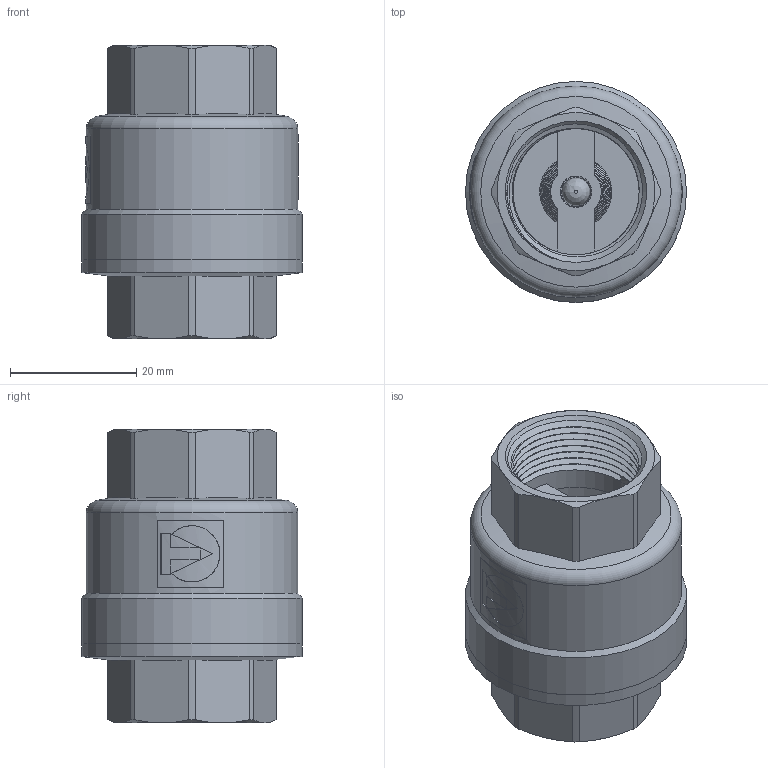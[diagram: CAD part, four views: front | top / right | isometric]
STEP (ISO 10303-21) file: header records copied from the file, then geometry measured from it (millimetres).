
FILE_DESCRIPTION(/* description */ (''),/* implementation_level */ '2;1');
FILE_NAME(/* name */ 'F:\Артём\00000\Работа удаленка\═╝╓╜\VT.161\VT.161.N.04.stp',/* time_stamp */ '2021-04-01T14:40:29+03:00',/* author */ ('almis'),/* organization */ (''),/* preprocessor_version */ 'ST-DEVELOPER v18',/* originating_system */ 'Autodesk Inventor 2020',/* authorisation */ '');
FILE_SCHEMA (('AUTOMOTIVE_DESIGN { 1 0 10303 214 3 1 1 }'));
Length unit declared in the file: millimetre
Products named in the file (1): VT.161_1%2
Bounding box: 35 x 35 x 46.5 mm (x, y, z)
Volume: 12211.8 mm3; surface area: 13855.1 mm2
Topology: 3 solids, 3 shells, 148 faces, 398 edges, 264 vertices
Faces by surface type: plane 58, cylinder 51, cone 22, bspline 16, torus 1
Full cylindrical faces by diameter (mm): 4.5 x2, 5 x2, 20 x14, 25 x1, 30 x1, 33.5 x1, 34.975 x1, 35 x1
Entity records: 10852 total; most frequent: CARTESIAN_POINT 7244, ORIENTED_EDGE 798, DIRECTION 695, EDGE_CURVE 399, AXIS2_PLACEMENT_3D 272, VERTEX_POINT 265, EDGE_LOOP 166, LINE 151
